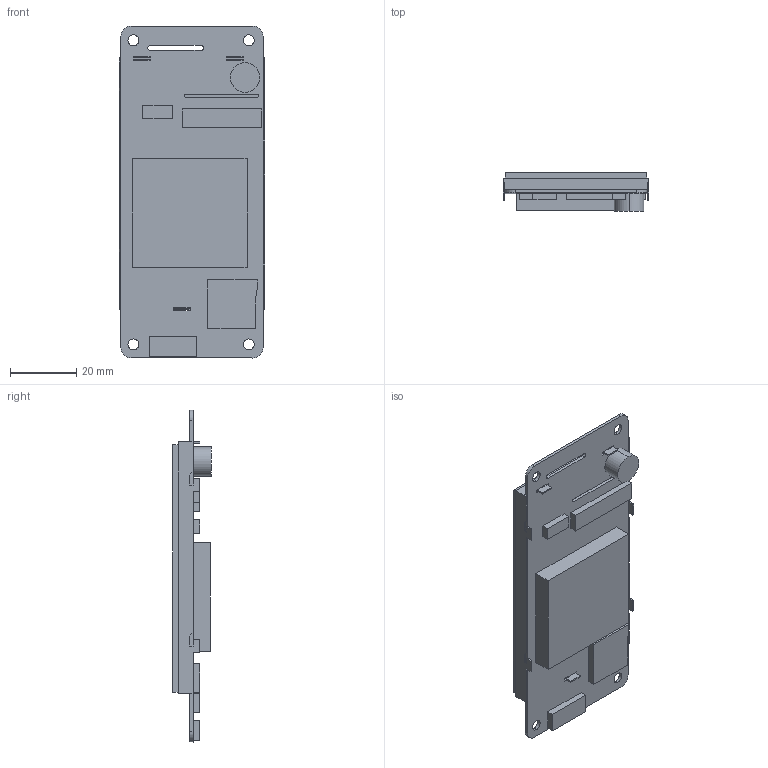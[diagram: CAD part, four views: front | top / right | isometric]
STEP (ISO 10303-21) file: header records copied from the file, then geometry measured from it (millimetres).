
FILE_DESCRIPTION((''),'2;1');
FILE_NAME('DMG64360K030-01WTC','2022-05-23T',('Administrator'),(''),'PRO/ENGINEER BY PARAMETRIC TECHNOLOGY CORPORATION, 2011310','PRO/ENGINEER BY PARAMETRIC TECHNOLOGY CORPORATION, 2011310','');
FILE_SCHEMA(('CONFIG_CONTROL_DESIGN','SHAPE_APPEARANCE_LAYERS_GROUPS'));
Length unit declared in the file: millimetre
Products named in the file (1): DMG64360K030-01WTC
Bounding box: 43.8 x 11.63 x 100 mm (x, y, z)
Volume: 24938.1 mm3; surface area: 23718 mm2
Topology: 1 solids, 2 shells, 158 faces, 452 edges, 296 vertices
Faces by surface type: plane 136, cylinder 22
Entity records: 6241 total; most frequent: CARTESIAN_POINT 903, ORIENTED_EDGE 896, DIRECTION 814, EDGE_CURVE 448, VECTOR 408, LINE 408, VERTEX_POINT 292, AXIS2_PLACEMENT_3D 203
